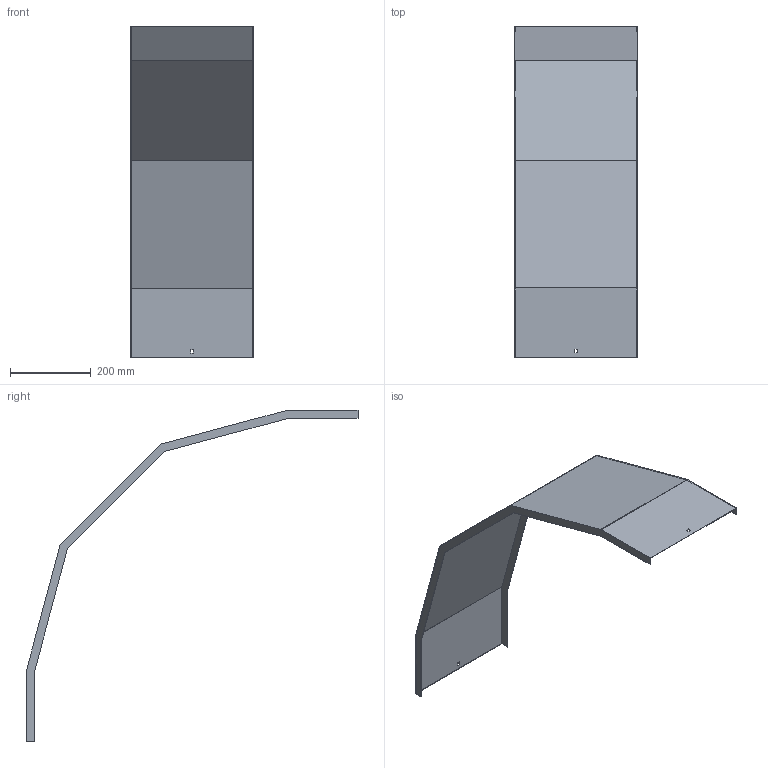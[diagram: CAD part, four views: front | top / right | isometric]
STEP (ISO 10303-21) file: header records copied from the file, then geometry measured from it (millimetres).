
FILE_DESCRIPTION (( 'STEP AP214' ), '1' );
FILE_NAME ('33N5F300.step', '2025-02-21T14:25:39', ( '' ), ( '' ), 'SwSTEP 2.0', 'SolidWorks 2023', '' );
FILE_SCHEMA (( 'AUTOMOTIVE_DESIGN' ));
Length unit declared in the file: millimetre
Products named in the file (1): 33N5F300
Bounding box: 303 x 820.4 x 820.4 mm (x, y, z)
Volume: 686299.7 mm3; surface area: 920133.9 mm2
Topology: 1 solids, 1 shells, 34 faces, 96 edges, 64 vertices
Faces by surface type: plane 34
Entity records: 1111 total; most frequent: CARTESIAN_POINT 195, ORIENTED_EDGE 192, DIRECTION 166, VECTOR 96, LINE 96, EDGE_CURVE 96, VERTEX_POINT 64, EDGE_LOOP 38
